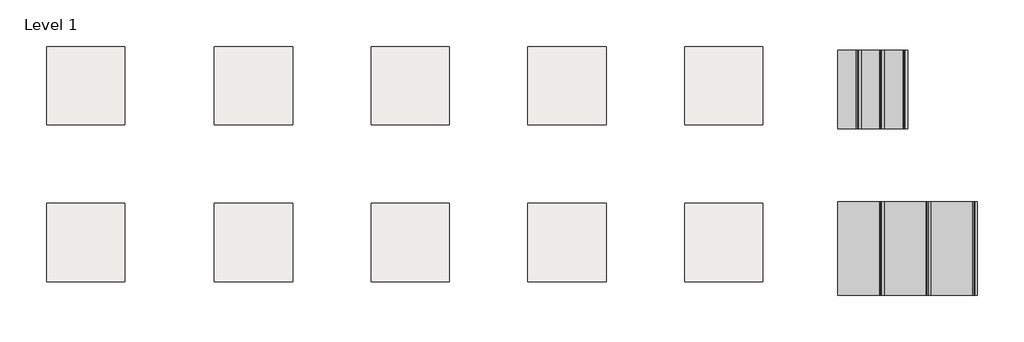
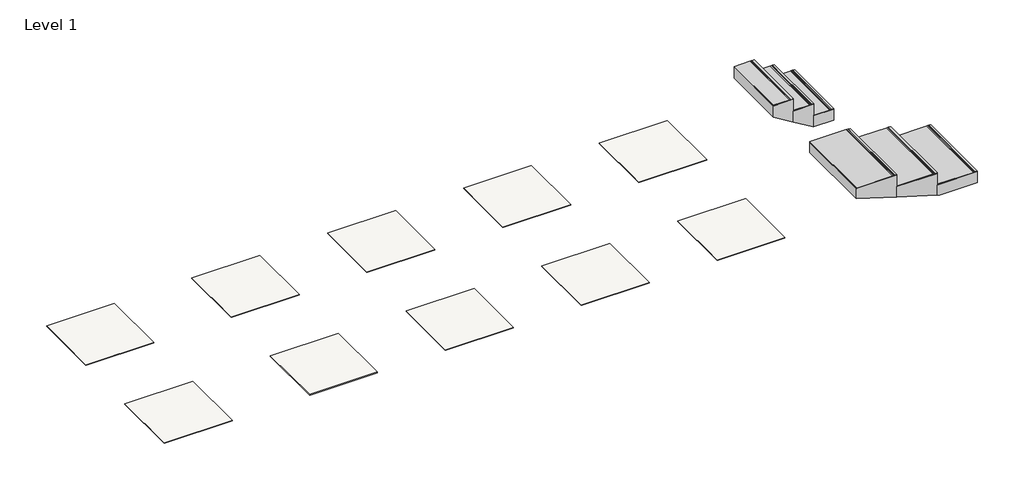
# One storey: 10 coverings, 2 stair flights.
"""IFC4 building model written with IfcOpenShell, lengths in millimetres."""

from ifc_helpers import new_model, si_unit, frame, origin, place, context, project, spatial, polyline, outline, extrude, faceted_brep, element, save

model = new_model("IFC4")

# Units and contexts
model_context = context("Model", 3, world=origin())
ifc_project = project(units=[si_unit("LENGTHUNIT", "METRE", prefix="MILLI")], contexts=[model_context])

# Site, building, storey
site = spatial("IfcSite", under=ifc_project)
building = spatial("IfcBuilding", under=site)
storey = spatial("IfcBuildingStorey", under=building, Name="Level 1", Elevation=0.0)

# Coverings
placement = place(None, origin())
element("IfcCovering", 1, ObjectType="REVIGRÉS-REFLEX-DG-29,5x59,2-RECT-CARBOM", at=placement, inside=storey, context=model_context, shape_type="SweptSolid", body=[
    extrude(outline(polyline([(77840.9341098, 20731.1346775), (76840.9341098, 20731.1346775), (76840.9341098, 21731.1346775), (77840.9341098, 21731.1346775), (77840.9341098, 20731.1346775)])), frame((0.0, 0.0, -9.8), z_axis=(0.0, 0.0, 1.0), x_axis=(1.0, 0.0, 0.0)), (0.0, 0.0, 1.0), 9.8),
])
element("IfcCovering", 2, ObjectType="REVIGRÉS-REFLEX-DG-59,2x118,6-RECT-CARBON", at=placement, inside=storey, context=model_context, shape_type="SweptSolid", body=[
    extrude(outline(polyline([(77840.9341099, 18731.1346775), (76840.9341099, 18731.1346775), (76840.9341098, 19731.1346775), (77840.9341098, 19731.1346775), (77840.9341099, 18731.1346775)])), frame((0.0, 0.0, -9.8), z_axis=(0.0, 0.0, 1.0), x_axis=(1.0, 0.0, 0.0)), (0.0, 0.0, 1.0), 9.8),
])
element("IfcCovering", 3, ObjectType="REVIGRÉS-REFLEX-DG-29,5x59,2-RECT-CORTEN", at=placement, inside=storey, context=model_context, shape_type="SweptSolid", body=[
    extrude(outline(polyline([(79980.9341098, 20731.1346775), (78980.9341098, 20731.1346775), (78980.9341098, 21731.1346775), (79980.9341098, 21731.1346775), (79980.9341098, 20731.1346775)])), frame((0.0, 0.0, -9.8), z_axis=(0.0, 0.0, 1.0), x_axis=(1.0, 0.0, 0.0)), (0.0, 0.0, 1.0), 9.8),
])
element("IfcCovering", 4, ObjectType="REVIGRÉS-REFLEX-DG-59,2x118,6-RECT-CORTEN", at=placement, inside=storey, context=model_context, shape_type="SweptSolid", body=[
    extrude(outline(polyline([(79980.9341099, 18731.1346775), (78980.9341098, 18731.1346775), (78980.9341098, 19731.1346775), (79980.9341098, 19731.1346775), (79980.9341099, 18731.1346775)])), frame((0.0, 0.0, -9.8), z_axis=(0.0, 0.0, 1.0), x_axis=(1.0, 0.0, 0.0)), (0.0, 0.0, 1.0), 9.8),
])
element("IfcCovering", 5, ObjectType="REVIGRÉS-REFLEX-DG-29,5x59,2-RECT-GOLD", at=placement, inside=storey, context=model_context, shape_type="SweptSolid", body=[
    extrude(outline(polyline([(81980.9341098, 20731.1346775), (80980.9341098, 20731.1346775), (80980.9341098, 21731.1346775), (81980.9341098, 21731.1346775), (81980.9341098, 20731.1346775)])), frame((0.0, 0.0, -9.8), z_axis=(0.0, 0.0, 1.0), x_axis=(1.0, 0.0, 0.0)), (0.0, 0.0, 1.0), 9.8),
])
element("IfcCovering", 6, ObjectType="REVIGRÉS-REFLEX-DG-59,2x118,6-RECT-GOLD", at=placement, inside=storey, context=model_context, shape_type="SweptSolid", body=[
    extrude(outline(polyline([(81980.9341099, 18731.1346775), (80980.9341098, 18731.1346775), (80980.9341098, 19731.1346775), (81980.9341098, 19731.1346775), (81980.9341099, 18731.1346775)])), frame((0.0, 0.0, -9.8), z_axis=(0.0, 0.0, 1.0), x_axis=(1.0, 0.0, 0.0)), (0.0, 0.0, 1.0), 9.8),
])
element("IfcCovering", 7, ObjectType="REVIGRÉS-REFLEX-DG-29,5x59,2-RECT-OXIDE", at=placement, inside=storey, context=model_context, shape_type="SweptSolid", body=[
    extrude(outline(polyline([(83980.9341099, 20731.1346775), (82980.9341099, 20731.1346775), (82980.9341099, 21731.1346775), (83980.9341099, 21731.1346775), (83980.9341099, 20731.1346775)])), frame((0.0, 0.0, -9.8), z_axis=(0.0, 0.0, 1.0), x_axis=(1.0, 0.0, 0.0)), (0.0, 0.0, 1.0), 9.8),
])
element("IfcCovering", 8, ObjectType="REVIGRÉS-REFLEX-DG-59,2x118,6-RECT-OXIDE", at=placement, inside=storey, context=model_context, shape_type="SweptSolid", body=[
    extrude(outline(polyline([(83980.9341099, 18731.1346775), (82980.9341099, 18731.1346775), (82980.9341099, 19731.1346775), (83980.9341099, 19731.1346775), (83980.9341099, 18731.1346775)])), frame((0.0, 0.0, -9.8), z_axis=(0.0, 0.0, 1.0), x_axis=(1.0, 0.0, 0.0)), (0.0, 0.0, 1.0), 9.8),
])
element("IfcCovering", 9, ObjectType="REVIGRÉS-REFLEX-DG-29,5x59,2-RECT-SILVER", at=placement, inside=storey, context=model_context, shape_type="SweptSolid", body=[
    extrude(outline(polyline([(85980.9341099, 20731.1346775), (84980.9341099, 20731.1346775), (84980.9341099, 21731.1346775), (85980.9341099, 21731.1346775), (85980.9341099, 20731.1346775)])), frame((0.0, 0.0, -9.8), z_axis=(0.0, 0.0, 1.0), x_axis=(1.0, 0.0, 0.0)), (0.0, 0.0, 1.0), 9.8),
])
element("IfcCovering", 10, ObjectType="REVIGRÉS-REFLEX-DG-59,2x118,6-RECT-SILVER", at=placement, inside=storey, context=model_context, shape_type="SweptSolid", body=[
    extrude(outline(polyline([(85980.9341099, 18731.1346775), (84980.9341099, 18731.1346775), (84980.9341099, 19731.1346775), (85980.9341099, 19731.1346775), (85980.9341099, 18731.1346775)])), frame((0.0, 0.0, -9.8), z_axis=(0.0, 0.0, 1.0), x_axis=(1.0, 0.0, 0.0)), (0.0, 0.0, 1.0), 9.8),
])

# Stair flights
element("IfcStairFlight", 11, ObjectType="REVIGRÉS-LIMESTONE-DG-30X60", at=placement, inside=storey, context=model_context, shape_type="SolidModel", body=[
    faceted_brep([(87528.9341099, 20681.6830823, 169.4941176), (87825.9341099, 20681.6830823, 169.4941176), (87825.9341099, 21681.6830823, 169.4941176), (87528.9341099, 21681.6830823, 169.4941176), (87528.9341099, 20681.6830823, 0.0), (87825.9341099, 20681.6830823, 0.0), (87825.9341099, 21681.6830823, 0.0), (87528.9341099, 21681.6830823, 0.0), (87231.9341099, 20681.6830823, 348.7882353), (87528.9341099, 20681.6830823, 348.7882353), (87528.9341099, 21681.6830823, 348.7882353), (87231.9341099, 21681.6830823, 348.7882353), (87231.9341099, 20681.6830823, 173.5747353), (87519.4599755, 20681.6830823, 0.0), (87519.4599755, 21681.6830823, 0.0), (87231.9341099, 21681.6830823, 173.5747353), (86934.9341099, 20681.6830823, 528.0823529), (87231.9341099, 20681.6830823, 528.0823529), (87231.9341099, 21681.6830823, 528.0823529), (86934.9341099, 21681.6830823, 528.0823529), (86934.9341099, 20681.6830823, 352.8688529), (86934.9341099, 21681.6830823, 352.8688529)], [[[0, 1, 2, 3]], [[1, 0, 4, 5]], [[2, 1, 5, 6]], [[3, 2, 6, 7]], [[8, 9, 10, 11]], [[4, 0, 9, 8, 12, 13]], [[0, 3, 10, 9]], [[3, 7, 14, 15, 11, 10]], [[16, 17, 18, 19]], [[17, 16, 20, 12, 8]], [[8, 11, 18, 17]], [[19, 18, 11, 15, 21]], [[16, 19, 21, 20]], [[5, 4, 13, 14, 7, 6]], [[14, 13, 12, 20, 21, 15]]]),
    extrude(outline(polyline([(179.2941176, 87795.9341099), (178.2941176, 87795.9341099), (178.2941176, 87790.9341099), (179.2941176, 87790.9341099), (179.2941176, 87780.9341099), (178.2941176, 87780.9341098), (178.2941176, 87775.9341098), (179.2941176, 87775.9341098), (179.2941176, 87765.9341099), (178.2941176, 87765.9341099), (178.2941176, 87760.9341099), (179.2941176, 87760.9341099), (179.2941176, 87530.9341099), (170.7941176, 87530.9341099), (170.7941176, 87825.9341099), (179.2941176, 87825.9341099), (179.2941176, 87795.9341099)])), frame((0.0, 20681.6830823, 0.0), z_axis=(0.0, 1.0, 0.0), x_axis=(0.0, 0.0, 1.0)), (0.0, 0.0, 1.0), 1000.0),
    extrude(outline(polyline([(358.5882353, 87498.9341098), (357.5882353, 87498.9341098), (357.5882353, 87493.9341098), (358.5882353, 87493.9341098), (358.5882353, 87483.9341098), (357.5882353, 87483.9341098), (357.5882353, 87478.9341098), (358.5882353, 87478.9341098), (358.5882353, 87468.9341098), (357.5882353, 87468.9341098), (357.5882353, 87463.9341098), (358.5882353, 87463.9341098), (358.5882353, 87233.9341098), (350.0882353, 87233.9341098), (350.0882353, 87528.9341098), (358.5882353, 87528.9341098), (358.5882353, 87498.9341098)])), frame((0.0, 20681.6830823, 0.0), z_axis=(0.0, 1.0, 0.0), x_axis=(0.0, 0.0, 1.0)), (0.0, 0.0, 1.0), 1000.0),
    extrude(outline(polyline([(537.8823529, 87201.9341098), (536.8823529, 87201.9341098), (536.8823529, 87196.9341098), (537.8823529, 87196.9341098), (537.8823529, 87186.9341098), (536.8823529, 87186.9341098), (536.8823529, 87181.9341098), (537.8823529, 87181.9341098), (537.8823529, 87171.9341098), (536.8823529, 87171.9341098), (536.8823529, 87166.9341098), (537.8823529, 87166.9341098), (537.8823529, 86936.9341098), (529.3823529, 86936.9341098), (529.3823529, 87231.9341098), (537.8823529, 87231.9341098), (537.8823529, 87201.9341098)])), frame((0.0, 20681.6830823, 0.0), z_axis=(0.0, 1.0, 0.0), x_axis=(0.0, 0.0, 1.0)), (0.0, 0.0, 1.0), 1000.0),
])
element("IfcStairFlight", 12, ObjectType="REVIGRÉS-LIMESTONE-DG-60X120", at=placement, inside=storey, context=model_context, shape_type="SolidModel", body=[
    faceted_brep([(88122.9341099, 18561.3467402, 168.7941176), (88716.9341099, 18561.3467402, 168.7941176), (88716.9341099, 19749.3467402, 168.7941176), (88122.9341099, 19749.3467402, 168.7941176), (88122.9341099, 18561.3467402, 12.1099045), (88163.0541281, 18561.3467402, 0.0), (88716.9341099, 18561.3467402, 0.0), (88716.9341099, 19749.3467402, 0.0), (88163.0541281, 19749.3467402, 0.0), (88122.9341099, 19749.3467402, 12.1099045), (87528.9341099, 18561.3467402, 348.0882353), (88122.9341099, 18561.3467402, 348.0882353), (88122.9341099, 19749.3467402, 348.0882353), (87528.9341099, 19749.3467402, 348.0882353), (87528.9341099, 18561.3467402, 191.4040222), (87528.9341099, 19749.3467402, 191.4040222), (86934.9341099, 18561.3467402, 527.3823529), (87528.9341099, 18561.3467402, 527.3823529), (87528.9341099, 19749.3467402, 527.3823529), (86934.9341099, 19749.3467402, 527.3823529), (86934.9341099, 18561.3467402, 370.6981398), (86934.9341099, 19749.3467402, 370.6981398)], [[[0, 1, 2, 3]], [[1, 0, 4, 5, 6]], [[2, 1, 6, 7]], [[3, 2, 7, 8, 9]], [[10, 11, 12, 13]], [[11, 10, 14, 4, 0]], [[0, 3, 12, 11]], [[13, 12, 3, 9, 15]], [[16, 17, 18, 19]], [[17, 16, 20, 14, 10]], [[10, 13, 18, 17]], [[19, 18, 13, 15, 21]], [[16, 19, 21, 20]], [[7, 6, 5, 8]], [[8, 5, 4, 14, 20, 21, 15, 9]]]),
    extrude(outline(polyline([(179.2941176, 88686.9341099), (178.2941176, 88686.9341099), (178.2941176, 88681.9341099), (179.2941176, 88681.9341099), (179.2941176, 88671.9341099), (178.2941176, 88671.9341099), (178.2941176, 88666.9341099), (179.2941176, 88666.9341099), (179.2941176, 88656.9341099), (178.2941176, 88656.9341099), (178.2941176, 88651.9341099), (179.2941176, 88651.9341099), (179.2941176, 88124.9341099), (169.4941176, 88124.9341099), (169.4941176, 88716.9341099), (179.2941176, 88716.9341099), (179.2941176, 88686.9341099)])), frame((0.0, 18561.3467402, 0.0), z_axis=(0.0, 1.0, 0.0), x_axis=(0.0, 0.0, 1.0)), (0.0, 0.0, 1.0), 1188.0),
    extrude(outline(polyline([(358.5882353, 88092.9341099), (357.5882353, 88092.9341099), (357.5882353, 88087.9341099), (358.5882353, 88087.9341099), (358.5882353, 88077.9341099), (357.5882353, 88077.9341099), (357.5882353, 88072.9341099), (358.5882353, 88072.9341099), (358.5882353, 88062.9341099), (357.5882353, 88062.9341099), (357.5882353, 88057.9341099), (358.5882353, 88057.9341099), (358.5882353, 87530.9341099), (348.7882353, 87530.9341099), (348.7882353, 88122.9341099), (358.5882353, 88122.9341099), (358.5882353, 88092.9341099)])), frame((0.0, 18561.3467402, 0.0), z_axis=(0.0, 1.0, 0.0), x_axis=(0.0, 0.0, 1.0)), (0.0, 0.0, 1.0), 1188.0),
    extrude(outline(polyline([(537.8823529, 87498.9341099), (536.8823529, 87498.9341099), (536.8823529, 87493.9341099), (537.8823529, 87493.9341099), (537.8823529, 87483.9341099), (536.8823529, 87483.9341099), (536.8823529, 87478.9341099), (537.8823529, 87478.9341099), (537.8823529, 87468.9341099), (536.8823529, 87468.9341099), (536.8823529, 87463.9341099), (537.8823529, 87463.9341099), (537.8823529, 86936.9341099), (528.0823529, 86936.9341099), (528.0823529, 87528.9341099), (537.8823529, 87528.9341099), (537.8823529, 87498.9341099)])), frame((0.0, 18561.3467402, 0.0), z_axis=(0.0, 1.0, 0.0), x_axis=(0.0, 0.0, 1.0)), (0.0, 0.0, 1.0), 1188.0),
])

save(model, "model.ifc")
